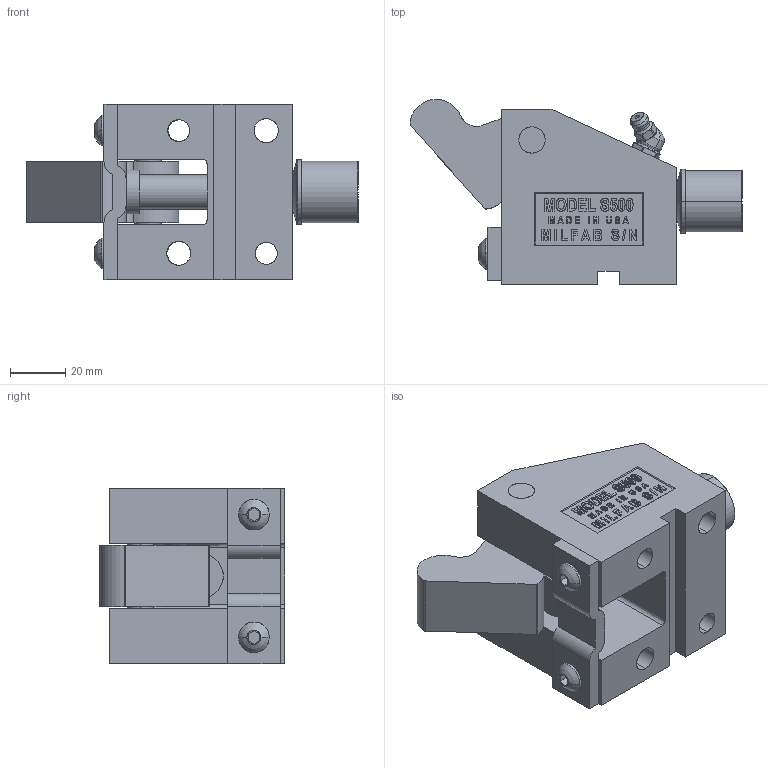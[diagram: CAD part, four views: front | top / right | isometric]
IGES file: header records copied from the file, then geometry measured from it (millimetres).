
Start section: SolidWorks IGES file using analytic representation for surfaces
Global section: file name: Y:\JIM'S INCH CAM UNITS\S50045\OPEN\S50045-O.IGS; native system: SolidWorks 2006 by SolidWorks Corporation; preprocessor: SolidWorks 2006 by SolidWorks Corporation; author: Jim; date: 090207.152131; units: inch
Bounding box: 120.27 x 67.08 x 63.5 mm (x, y, z)
Surface area: 54208 mm2 (no closed solid volume)
Topology: 0 solids, 0 shells, 571 faces, 7397 edges, 7395 vertices
Faces by surface type: bspline 443, revolution 128
